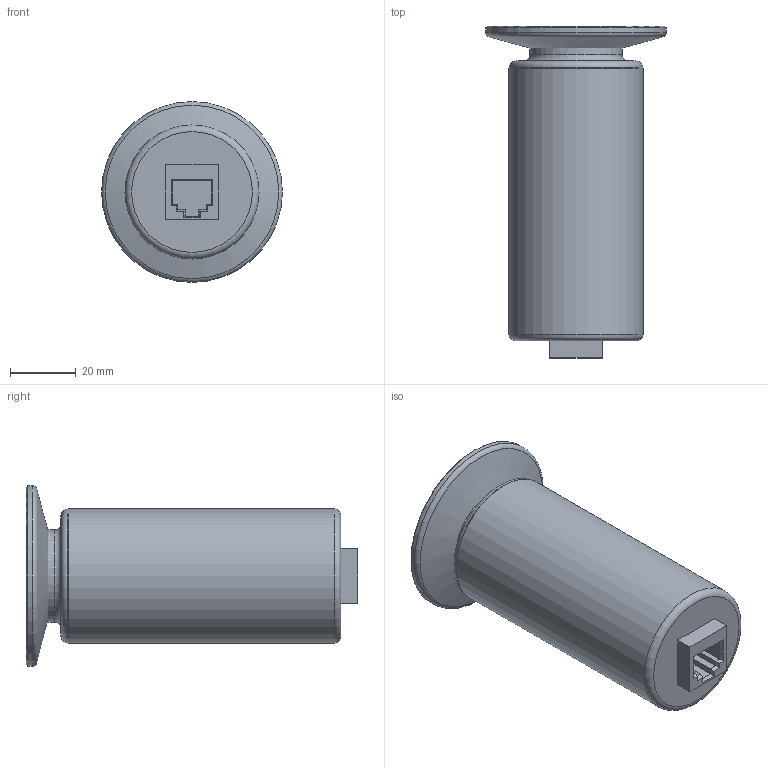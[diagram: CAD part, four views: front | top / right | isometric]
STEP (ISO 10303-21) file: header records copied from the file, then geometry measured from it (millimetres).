
FILE_DESCRIPTION((''),'2;1');
FILE_NAME('C:\Users\VanhauMa\Desktop\Step files\Inventor files\11_8pin_long_KF40.stp','2015-07-08T16:02:35',('VanhauMa'),(''),'Autodesk Inventor 2013','Autodesk Inventor 2013','');
FILE_SCHEMA(('AUTOMOTIVE_DESIGN { 1 0 10303 214 1 1 1 1 }'));
Length unit declared in the file: millimetre
Products named in the file (1): 11_8pin_long_KF40
Bounding box: 55 x 100.9 x 55 mm (x, y, z)
Volume: 100073.8 mm3; surface area: 22594 mm2
Topology: 1 solids, 1 shells, 54 faces, 110 edges, 67 vertices
Faces by surface type: plane 39, cylinder 9, torus 4, cone 2
Full cylindrical faces by diameter (mm): 22.8 x1, 24.2 x2, 25 x1, 28 x1, 40.6 x1, 40.75 x1, 41.4 x1, 55 x1
Entity records: 1363 total; most frequent: DIRECTION 228, CARTESIAN_POINT 217, ORIENTED_EDGE 190, EDGE_CURVE 95, AXIS2_PLACEMENT_3D 78, EDGE_LOOP 78, VECTOR 72, LINE 72
